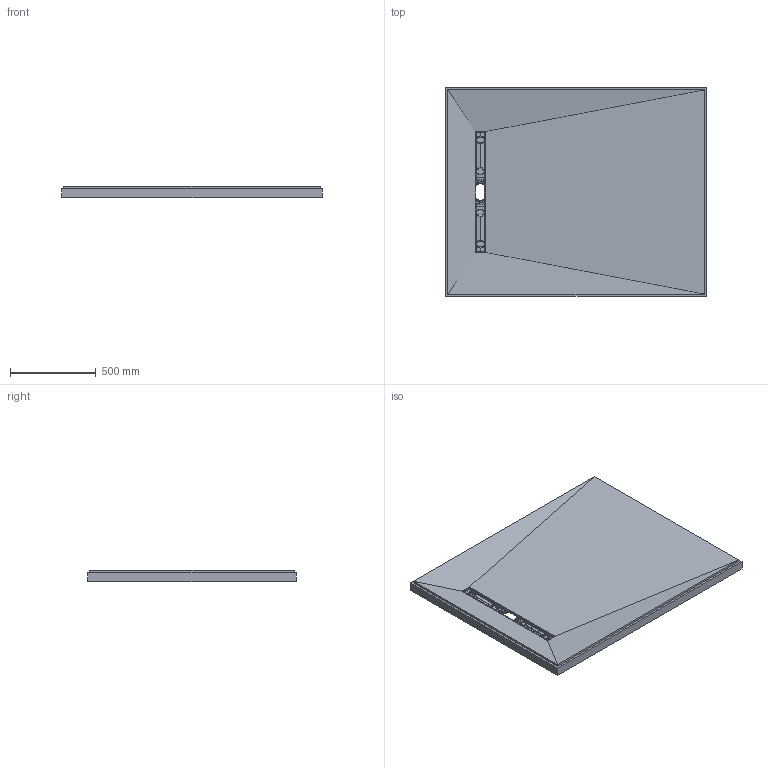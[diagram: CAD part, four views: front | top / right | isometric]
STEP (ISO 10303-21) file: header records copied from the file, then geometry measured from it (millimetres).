
FILE_DESCRIPTION(/* description */ ('Fertigteil'),/* implementation_level */ '2;1');
FILE_NAME(/* name */ 'C:\Users\fuser-vault-job\AppData\Local\Temp\MuM_nnibxzmf.zp5\D-000000627.iam_.step',/* time_stamp */ '2022-07-18T17:07:25+02:00',/* author */ ('ds'),/* organization */ (''),/* preprocessor_version */ 'ST-DEVELOPER v18.1',/* originating_system */ 'Autodesk Inventor 2020',/* authorisation */ '');
FILE_SCHEMA (('AUTOMOTIVE_DESIGN { 1 0 10303 214 3 1 1 }'));
Products named in the file (4): 075100150; 075100150_1; 075301011; D-000000767
Assembly tree (3 placements, depth 2):
  075100150
    075100150_1
    075301011
    D-000000767
Bounding box: 1524 x 1219.2 x 65 mm (x, y, z)
Volume: 94638263 mm3; surface area: 4530428.2 mm2
Topology: 5 solids, 5 shells, 2607 faces, 6267 edges, 3620 vertices
Faces by surface type: cylinder 1037, bspline 737, plane 470, sphere 232, torus 73, cone 58
Full cylindrical faces by diameter (mm): 8 x3, 123 x1
Entity records: 151043 total; most frequent: CARTESIAN_POINT 92156, ORIENTED_EDGE 12230, DIRECTION 11372, EDGE_CURVE 6115, AXIS2_PLACEMENT_3D 4520, VERTEX_POINT 3588, EDGE_LOOP 2689, FACE_OUTER_BOUND 2607
